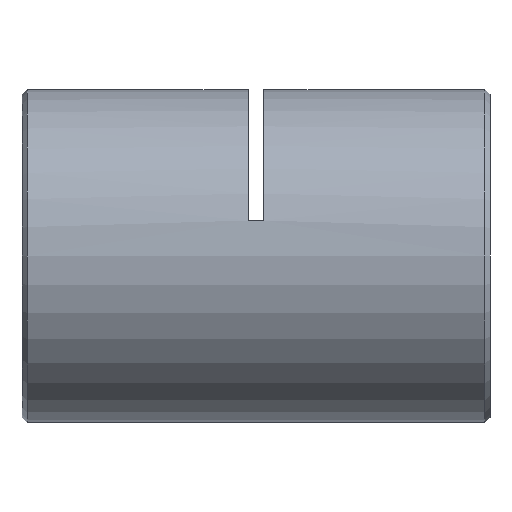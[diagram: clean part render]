
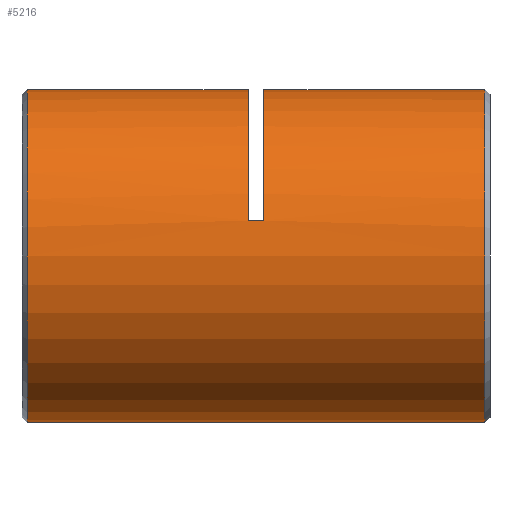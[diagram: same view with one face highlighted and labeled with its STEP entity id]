
A CAD part, left-side view. The second image highlights one B-rep face of the part: STEP entity #5216.
In plain terms, the highlighted cylindrical face has radius 16 mm (diameter 32 mm), a partial arc.
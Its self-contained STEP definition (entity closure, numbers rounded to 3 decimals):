
#3 = EDGE_CURVE ( 'NONE', #938, #2212, #3988, .T. ) ;
#240 = CARTESIAN_POINT ( 'NONE',  ( 0., 0., 16. ) ) ;
#338 = AXIS2_PLACEMENT_3D ( 'NONE', #2714, #5621, #5678 ) ;
#353 = CIRCLE ( 'NONE', #3943, 16. ) ;
#379 = EDGE_CURVE ( 'NONE', #4866, #3820, #6059, .T. ) ;
#467 = CARTESIAN_POINT ( 'NONE',  ( 0., 0., -16. ) ) ;
#751 = CIRCLE ( 'NONE', #338, 16. ) ;
#849 = CARTESIAN_POINT ( 'NONE',  ( 0., 0., 16. ) ) ;
#880 = LINE ( 'NONE', #2749, #4855 ) ;
#938 = VERTEX_POINT ( 'NONE', #2596 ) ;
#1021 = VECTOR ( 'NONE', #5784, 1000. ) ;
#1056 = AXIS2_PLACEMENT_3D ( 'NONE', #4637, #6104, #1799 ) ;
#1388 = CARTESIAN_POINT ( 'NONE',  ( 0., 44.75, 16. ) ) ;
#1508 = DIRECTION ( 'NONE',  ( 0., 1., 0. ) ) ;
#1559 = ORIENTED_EDGE ( 'NONE', *, *, #4798, .T. ) ;
#1775 = CARTESIAN_POINT ( 'NONE',  ( 0., 0., 0. ) ) ;
#1787 = VERTEX_POINT ( 'NONE', #1388 ) ;
#1799 = DIRECTION ( 'NONE',  ( 0., 0., -1. ) ) ;
#1814 = DIRECTION ( 'NONE',  ( 0., 1., 0. ) ) ;
#1877 = EDGE_LOOP ( 'NONE', ( #3770, #1559, #5898, #5815, #3999, #3838, #3946, #4077 ) ) ;
#2209 = EDGE_CURVE ( 'NONE', #3081, #4312, #3354, .T. ) ;
#2212 = VERTEX_POINT ( 'NONE', #5691 ) ;
#2340 = LINE ( 'NONE', #849, #4726 ) ;
#2528 = DIRECTION ( 'NONE',  ( 0., 0., 1. ) ) ;
#2596 = CARTESIAN_POINT ( 'NONE',  ( -15.632, 23.5, 3.413 ) ) ;
#2714 = CARTESIAN_POINT ( 'NONE',  ( 0., 22., 0. ) ) ;
#2724 = DIRECTION ( 'NONE',  ( 0., 1., 0. ) ) ;
#2749 = CARTESIAN_POINT ( 'NONE',  ( -15.632, 22.75, 3.413 ) ) ;
#3020 = DIRECTION ( 'NONE',  ( 0., 0., 1. ) ) ;
#3081 = VERTEX_POINT ( 'NONE', #3762 ) ;
#3085 = DIRECTION ( 'NONE',  ( 0., 1., 0. ) ) ;
#3305 = CARTESIAN_POINT ( 'NONE',  ( -15.632, 22., 3.413 ) ) ;
#3354 = LINE ( 'NONE', #467, #1021 ) ;
#3392 = EDGE_CURVE ( 'NONE', #2212, #1787, #2340, .T. ) ;
#3452 = EDGE_CURVE ( 'NONE', #3471, #3820, #751, .T. ) ;
#3471 = VERTEX_POINT ( 'NONE', #3305 ) ;
#3482 = CARTESIAN_POINT ( 'NONE',  ( 0., 23.5, 0. ) ) ;
#3762 = CARTESIAN_POINT ( 'NONE',  ( 0., 0.75, -16. ) ) ;
#3770 = ORIENTED_EDGE ( 'NONE', *, *, #2209, .F. ) ;
#3820 = VERTEX_POINT ( 'NONE', #5928 ) ;
#3838 = ORIENTED_EDGE ( 'NONE', *, *, #3, .T. ) ;
#3900 = VECTOR ( 'NONE', #1814, 1000. ) ;
#3943 = AXIS2_PLACEMENT_3D ( 'NONE', #5020, #5082, #4537 ) ;
#3946 = ORIENTED_EDGE ( 'NONE', *, *, #3392, .T. ) ;
#3988 = CIRCLE ( 'NONE', #5392, 16. ) ;
#3999 = ORIENTED_EDGE ( 'NONE', *, *, #4955, .T. ) ;
#4077 = ORIENTED_EDGE ( 'NONE', *, *, #5490, .T. ) ;
#4148 = FACE_OUTER_BOUND ( 'NONE', #1877, .T. ) ;
#4182 = CARTESIAN_POINT ( 'NONE',  ( 0., 44.75, -16. ) ) ;
#4312 = VERTEX_POINT ( 'NONE', #4182 ) ;
#4537 = DIRECTION ( 'NONE',  ( 0., 0., 1. ) ) ;
#4637 = CARTESIAN_POINT ( 'NONE',  ( 0., 44.75, 0. ) ) ;
#4680 = CARTESIAN_POINT ( 'NONE',  ( 0., 0.75, 16. ) ) ;
#4726 = VECTOR ( 'NONE', #2724, 1000. ) ;
#4798 = EDGE_CURVE ( 'NONE', #3081, #4866, #353, .T. ) ;
#4855 = VECTOR ( 'NONE', #5978, 1000. ) ;
#4866 = VERTEX_POINT ( 'NONE', #4680 ) ;
#4955 = EDGE_CURVE ( 'NONE', #3471, #938, #880, .T. ) ;
#5020 = CARTESIAN_POINT ( 'NONE',  ( 0., 0.75, 0. ) ) ;
#5082 = DIRECTION ( 'NONE',  ( 0., 1., 0. ) ) ;
#5216 = ADVANCED_FACE ( 'NONE', ( #4148 ), #6081, .T. ) ;
#5357 = AXIS2_PLACEMENT_3D ( 'NONE', #1775, #1508, #2528 ) ;
#5392 = AXIS2_PLACEMENT_3D ( 'NONE', #3482, #3085, #3020 ) ;
#5490 = EDGE_CURVE ( 'NONE', #1787, #4312, #5741, .T. ) ;
#5621 = DIRECTION ( 'NONE',  ( 0., 1., 0. ) ) ;
#5678 = DIRECTION ( 'NONE',  ( 0., 0., 1. ) ) ;
#5691 = CARTESIAN_POINT ( 'NONE',  ( 0., 23.5, 16. ) ) ;
#5741 = CIRCLE ( 'NONE', #1056, 16. ) ;
#5784 = DIRECTION ( 'NONE',  ( 0., 1., 0. ) ) ;
#5815 = ORIENTED_EDGE ( 'NONE', *, *, #3452, .F. ) ;
#5898 = ORIENTED_EDGE ( 'NONE', *, *, #379, .T. ) ;
#5928 = CARTESIAN_POINT ( 'NONE',  ( 0., 22., 16. ) ) ;
#5978 = DIRECTION ( 'NONE',  ( 0., 1., 0. ) ) ;
#6059 = LINE ( 'NONE', #240, #3900 ) ;
#6081 = CYLINDRICAL_SURFACE ( 'NONE', #5357, 16. ) ;
#6104 = DIRECTION ( 'NONE',  ( 0., -1., 0. ) ) ;
